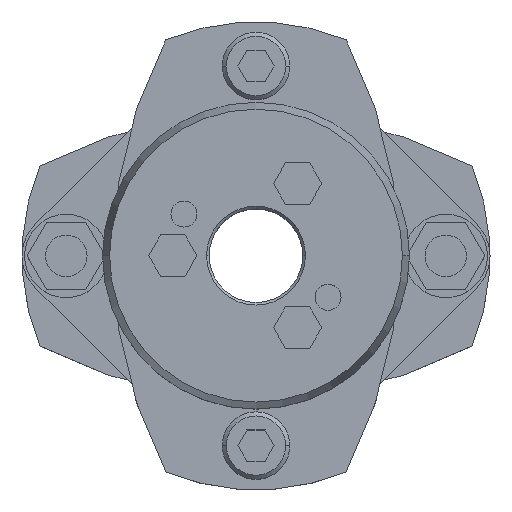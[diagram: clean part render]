
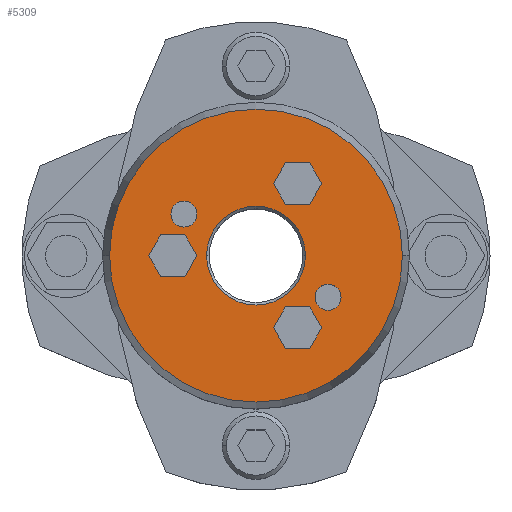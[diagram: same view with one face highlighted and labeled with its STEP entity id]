
A CAD part, top view. The second image highlights one B-rep face of the part: STEP entity #5309.
In plain terms, the highlighted planar face has unit normal (0, 0, 1).
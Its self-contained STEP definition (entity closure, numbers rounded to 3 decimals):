
#857=CARTESIAN_POINT('',(-9.5,0.,39.25));
#858=VERTEX_POINT('',#857);
#874=CARTESIAN_POINT('',(9.5,0.,39.25));
#875=VERTEX_POINT('',#874);
#882=CARTESIAN_POINT('',(0.,0.,39.25));
#883=DIRECTION('',(0.0,0.0,1.0));
#884=DIRECTION('',(-1.0,0.0,0.0));
#885=AXIS2_PLACEMENT_3D('',#882,#883,#884);
#886=CIRCLE('',#885,9.5);
#887=EDGE_CURVE('',#875,#858,#886,.T.);
#1045=CARTESIAN_POINT('',(28.16,0.,39.25));
#1046=VERTEX_POINT('',#1045);
#1053=CARTESIAN_POINT('',(-28.16,0.,39.25));
#1054=VERTEX_POINT('',#1053);
#1055=CARTESIAN_POINT('',(0.,0.,39.25));
#1056=DIRECTION('',(0.0,0.0,-1.0));
#1057=DIRECTION('',(1.0,0.0,0.0));
#1058=AXIS2_PLACEMENT_3D('',#1055,#1056,#1057);
#1059=CIRCLE('',#1058,28.16);
#1060=EDGE_CURVE('',#1046,#1054,#1059,.T.);
#1303=CARTESIAN_POINT('',(-16.356,8.,39.25));
#1304=VERTEX_POINT('',#1303);
#1320=CARTESIAN_POINT('',(-11.356,8.,39.25));
#1321=VERTEX_POINT('',#1320);
#1328=CARTESIAN_POINT('',(-13.856,8.,39.25));
#1329=DIRECTION('',(0.0,0.0,-1.0));
#1330=DIRECTION('',(-1.0,0.0,0.0));
#1331=AXIS2_PLACEMENT_3D('',#1328,#1329,#1330);
#1332=CIRCLE('',#1331,2.5);
#1333=EDGE_CURVE('',#1304,#1321,#1332,.T.);
#1345=CARTESIAN_POINT('',(11.356,-8.,39.25));
#1346=VERTEX_POINT('',#1345);
#1362=CARTESIAN_POINT('',(16.356,-8.,39.25));
#1363=VERTEX_POINT('',#1362);
#1370=CARTESIAN_POINT('',(13.856,-8.,39.25));
#1371=DIRECTION('',(0.0,0.0,-1.0));
#1372=DIRECTION('',(-1.0,0.0,0.0));
#1373=AXIS2_PLACEMENT_3D('',#1370,#1371,#1372);
#1374=CIRCLE('',#1373,2.5);
#1375=EDGE_CURVE('',#1346,#1363,#1374,.T.);
#3825=CARTESIAN_POINT('',(3.381,13.856,39.25));
#3826=VERTEX_POINT('',#3825);
#3833=CARTESIAN_POINT('',(5.691,9.856,39.25));
#3834=VERTEX_POINT('',#3833);
#3835=CARTESIAN_POINT('',(5.691,9.856,39.25));
#3836=DIRECTION('',(-0.5,0.866,0.0));
#3837=VECTOR('',#3836,4.619);
#3838=LINE('',#3835,#3837);
#3839=EDGE_CURVE('',#3834,#3826,#3838,.T.);
#3863=CARTESIAN_POINT('',(5.691,17.856,39.25));
#3864=VERTEX_POINT('',#3863);
#3871=CARTESIAN_POINT('',(3.381,13.856,39.25));
#3872=DIRECTION('',(0.5,0.866,0.0));
#3873=VECTOR('',#3872,4.619);
#3874=LINE('',#3871,#3873);
#3875=EDGE_CURVE('',#3826,#3864,#3874,.T.);
#3894=CARTESIAN_POINT('',(10.309,17.856,39.25));
#3895=VERTEX_POINT('',#3894);
#3902=CARTESIAN_POINT('',(5.691,17.856,39.25));
#3903=DIRECTION('',(1.0,0.0,0.0));
#3904=VECTOR('',#3903,4.619);
#3905=LINE('',#3902,#3904);
#3906=EDGE_CURVE('',#3864,#3895,#3905,.T.);
#3925=CARTESIAN_POINT('',(12.619,13.856,39.25));
#3926=VERTEX_POINT('',#3925);
#3933=CARTESIAN_POINT('',(10.309,17.856,39.25));
#3934=DIRECTION('',(0.5,-0.866,0.0));
#3935=VECTOR('',#3934,4.619);
#3936=LINE('',#3933,#3935);
#3937=EDGE_CURVE('',#3895,#3926,#3936,.T.);
#3956=CARTESIAN_POINT('',(10.309,9.856,39.25));
#3957=VERTEX_POINT('',#3956);
#3964=CARTESIAN_POINT('',(12.619,13.856,39.25));
#3965=DIRECTION('',(-0.5,-0.866,0.0));
#3966=VECTOR('',#3965,4.619);
#3967=LINE('',#3964,#3966);
#3968=EDGE_CURVE('',#3926,#3957,#3967,.T.);
#3986=CARTESIAN_POINT('',(10.309,9.856,39.25));
#3987=DIRECTION('',(-1.0,0.0,0.0));
#3988=VECTOR('',#3987,4.619);
#3989=LINE('',#3986,#3988);
#3990=EDGE_CURVE('',#3957,#3834,#3989,.T.);
#4025=CARTESIAN_POINT('',(-20.619,0.,39.25));
#4026=VERTEX_POINT('',#4025);
#4033=CARTESIAN_POINT('',(-18.309,-4.,39.25));
#4034=VERTEX_POINT('',#4033);
#4035=CARTESIAN_POINT('',(-18.309,-4.,39.25));
#4036=DIRECTION('',(-0.5,0.866,0.0));
#4037=VECTOR('',#4036,4.619);
#4038=LINE('',#4035,#4037);
#4039=EDGE_CURVE('',#4034,#4026,#4038,.T.);
#4063=CARTESIAN_POINT('',(-18.309,4.,39.25));
#4064=VERTEX_POINT('',#4063);
#4071=CARTESIAN_POINT('',(-20.619,0.,39.25));
#4072=DIRECTION('',(0.5,0.866,0.0));
#4073=VECTOR('',#4072,4.619);
#4074=LINE('',#4071,#4073);
#4075=EDGE_CURVE('',#4026,#4064,#4074,.T.);
#4094=CARTESIAN_POINT('',(-13.691,4.,39.25));
#4095=VERTEX_POINT('',#4094);
#4102=CARTESIAN_POINT('',(-18.309,4.,39.25));
#4103=DIRECTION('',(1.0,0.0,0.0));
#4104=VECTOR('',#4103,4.619);
#4105=LINE('',#4102,#4104);
#4106=EDGE_CURVE('',#4064,#4095,#4105,.T.);
#4125=CARTESIAN_POINT('',(-11.381,0.,39.25));
#4126=VERTEX_POINT('',#4125);
#4133=CARTESIAN_POINT('',(-13.691,4.,39.25));
#4134=DIRECTION('',(0.5,-0.866,0.0));
#4135=VECTOR('',#4134,4.619);
#4136=LINE('',#4133,#4135);
#4137=EDGE_CURVE('',#4095,#4126,#4136,.T.);
#4156=CARTESIAN_POINT('',(-13.691,-4.,39.25));
#4157=VERTEX_POINT('',#4156);
#4164=CARTESIAN_POINT('',(-11.381,0.,39.25));
#4165=DIRECTION('',(-0.5,-0.866,0.0));
#4166=VECTOR('',#4165,4.619);
#4167=LINE('',#4164,#4166);
#4168=EDGE_CURVE('',#4126,#4157,#4167,.T.);
#4186=CARTESIAN_POINT('',(-13.691,-4.,39.25));
#4187=DIRECTION('',(-1.0,0.0,0.0));
#4188=VECTOR('',#4187,4.619);
#4189=LINE('',#4186,#4188);
#4190=EDGE_CURVE('',#4157,#4034,#4189,.T.);
#4225=CARTESIAN_POINT('',(3.381,-13.856,39.25));
#4226=VERTEX_POINT('',#4225);
#4233=CARTESIAN_POINT('',(5.691,-17.856,39.25));
#4234=VERTEX_POINT('',#4233);
#4235=CARTESIAN_POINT('',(5.691,-17.856,39.25));
#4236=DIRECTION('',(-0.5,0.866,0.0));
#4237=VECTOR('',#4236,4.619);
#4238=LINE('',#4235,#4237);
#4239=EDGE_CURVE('',#4234,#4226,#4238,.T.);
#4263=CARTESIAN_POINT('',(5.691,-9.856,39.25));
#4264=VERTEX_POINT('',#4263);
#4271=CARTESIAN_POINT('',(3.381,-13.856,39.25));
#4272=DIRECTION('',(0.5,0.866,0.0));
#4273=VECTOR('',#4272,4.619);
#4274=LINE('',#4271,#4273);
#4275=EDGE_CURVE('',#4226,#4264,#4274,.T.);
#4294=CARTESIAN_POINT('',(10.309,-9.856,39.25));
#4295=VERTEX_POINT('',#4294);
#4302=CARTESIAN_POINT('',(5.691,-9.856,39.25));
#4303=DIRECTION('',(1.0,0.0,0.0));
#4304=VECTOR('',#4303,4.619);
#4305=LINE('',#4302,#4304);
#4306=EDGE_CURVE('',#4264,#4295,#4305,.T.);
#4325=CARTESIAN_POINT('',(12.619,-13.856,39.25));
#4326=VERTEX_POINT('',#4325);
#4333=CARTESIAN_POINT('',(10.309,-9.856,39.25));
#4334=DIRECTION('',(0.5,-0.866,0.0));
#4335=VECTOR('',#4334,4.619);
#4336=LINE('',#4333,#4335);
#4337=EDGE_CURVE('',#4295,#4326,#4336,.T.);
#4356=CARTESIAN_POINT('',(10.309,-17.856,39.25));
#4357=VERTEX_POINT('',#4356);
#4364=CARTESIAN_POINT('',(12.619,-13.856,39.25));
#4365=DIRECTION('',(-0.5,-0.866,0.0));
#4366=VECTOR('',#4365,4.619);
#4367=LINE('',#4364,#4366);
#4368=EDGE_CURVE('',#4326,#4357,#4367,.T.);
#4386=CARTESIAN_POINT('',(10.309,-17.856,39.25));
#4387=DIRECTION('',(-1.0,0.0,0.0));
#4388=VECTOR('',#4387,4.619);
#4389=LINE('',#4386,#4388);
#4390=EDGE_CURVE('',#4357,#4234,#4389,.T.);
#4416=CARTESIAN_POINT('',(13.856,-8.,39.25));
#4417=DIRECTION('',(0.0,0.0,-1.0));
#4418=DIRECTION('',(-1.0,0.0,0.0));
#4419=AXIS2_PLACEMENT_3D('',#4416,#4417,#4418);
#4420=CIRCLE('',#4419,2.5);
#4421=EDGE_CURVE('',#1363,#1346,#4420,.T.);
#4450=CARTESIAN_POINT('',(-13.856,8.,39.25));
#4451=DIRECTION('',(0.0,0.0,-1.0));
#4452=DIRECTION('',(-1.0,0.0,0.0));
#4453=AXIS2_PLACEMENT_3D('',#4450,#4451,#4452);
#4454=CIRCLE('',#4453,2.5);
#4455=EDGE_CURVE('',#1321,#1304,#4454,.T.);
#5248=CARTESIAN_POINT('',(0.,0.,39.25));
#5249=DIRECTION('',(0.0,0.0,-1.0));
#5250=DIRECTION('',(1.0,0.0,0.0));
#5251=AXIS2_PLACEMENT_3D('',#5248,#5249,#5250);
#5252=CIRCLE('',#5251,28.16);
#5253=EDGE_CURVE('',#1054,#1046,#5252,.T.);
#5258=CARTESIAN_POINT('',(-2.682,0.,39.25));
#5259=DIRECTION('',(0.0,0.0,1.0));
#5260=DIRECTION('',(-1.0,0.0,0.0));
#5261=AXIS2_PLACEMENT_3D('',#5258,#5259,#5260);
#5262=PLANE('',#5261);
#5263=ORIENTED_EDGE('',*,*,#5253,.F.);
#5264=ORIENTED_EDGE('',*,*,#1060,.F.);
#5265=EDGE_LOOP('',(#5263,#5264));
#5266=FACE_OUTER_BOUND('',#5265,.T.);
#5267=ORIENTED_EDGE('',*,*,#3839,.T.);
#5268=ORIENTED_EDGE('',*,*,#3875,.T.);
#5269=ORIENTED_EDGE('',*,*,#3906,.T.);
#5270=ORIENTED_EDGE('',*,*,#3937,.T.);
#5271=ORIENTED_EDGE('',*,*,#3968,.T.);
#5272=ORIENTED_EDGE('',*,*,#3990,.T.);
#5273=EDGE_LOOP('',(#5267,#5268,#5269,#5270,#5271,#5272));
#5274=FACE_BOUND('',#5273,.T.);
#5275=ORIENTED_EDGE('',*,*,#4039,.T.);
#5276=ORIENTED_EDGE('',*,*,#4075,.T.);
#5277=ORIENTED_EDGE('',*,*,#4106,.T.);
#5278=ORIENTED_EDGE('',*,*,#4137,.T.);
#5279=ORIENTED_EDGE('',*,*,#4168,.T.);
#5280=ORIENTED_EDGE('',*,*,#4190,.T.);
#5281=EDGE_LOOP('',(#5275,#5276,#5277,#5278,#5279,#5280));
#5282=FACE_BOUND('',#5281,.T.);
#5283=ORIENTED_EDGE('',*,*,#4239,.T.);
#5284=ORIENTED_EDGE('',*,*,#4275,.T.);
#5285=ORIENTED_EDGE('',*,*,#4306,.T.);
#5286=ORIENTED_EDGE('',*,*,#4337,.T.);
#5287=ORIENTED_EDGE('',*,*,#4368,.T.);
#5288=ORIENTED_EDGE('',*,*,#4390,.T.);
#5289=EDGE_LOOP('',(#5283,#5284,#5285,#5286,#5287,#5288));
#5290=FACE_BOUND('',#5289,.T.);
#5291=ORIENTED_EDGE('',*,*,#1375,.T.);
#5292=ORIENTED_EDGE('',*,*,#4421,.T.);
#5293=EDGE_LOOP('',(#5291,#5292));
#5294=FACE_BOUND('',#5293,.T.);
#5295=ORIENTED_EDGE('',*,*,#1333,.T.);
#5296=ORIENTED_EDGE('',*,*,#4455,.T.);
#5297=EDGE_LOOP('',(#5295,#5296));
#5298=FACE_BOUND('',#5297,.T.);
#5299=ORIENTED_EDGE('',*,*,#887,.F.);
#5300=CARTESIAN_POINT('',(0.,0.,39.25));
#5301=DIRECTION('',(0.0,0.0,1.0));
#5302=DIRECTION('',(-1.0,0.0,0.0));
#5303=AXIS2_PLACEMENT_3D('',#5300,#5301,#5302);
#5304=CIRCLE('',#5303,9.5);
#5305=EDGE_CURVE('',#858,#875,#5304,.T.);
#5306=ORIENTED_EDGE('',*,*,#5305,.F.);
#5307=EDGE_LOOP('',(#5299,#5306));
#5308=FACE_BOUND('',#5307,.T.);
#5309=ADVANCED_FACE('',(#5266,#5274,#5282,#5290,#5294,#5298,#5308),#5262,.T.);
